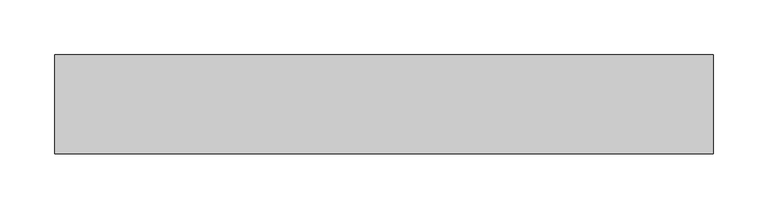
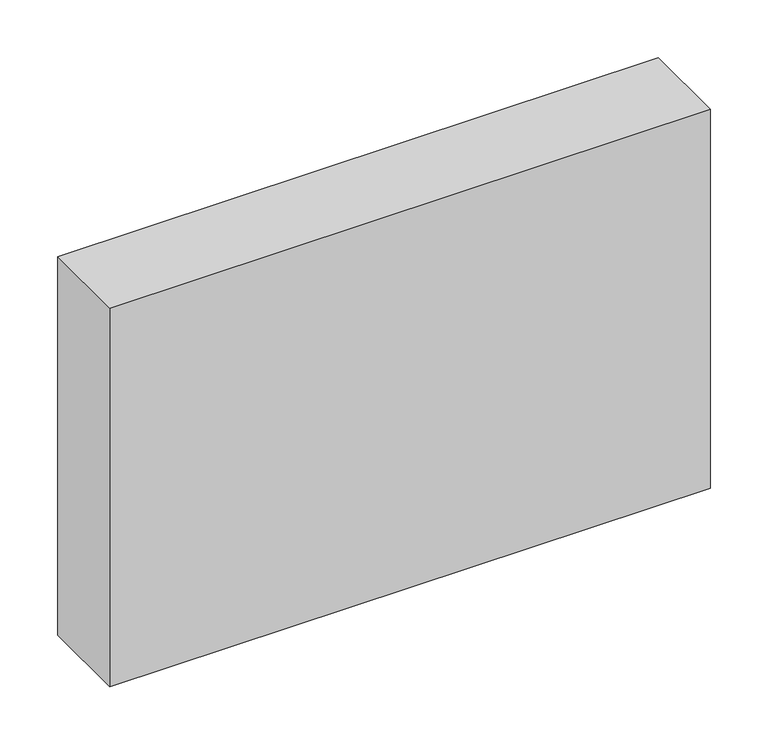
"""IFC4 building model written with IfcOpenShell, lengths in millimetres: proxy geometry, Módulo de Vedação de Concreto Celular - Celucon : MVCC 09x40x60cm (L x A x C)."""

from ifc_helpers import new_model, si_unit, origin, origin_with_axes, place, context, project, spatial, polyline, outline, extrude, source, transform, mapped, element, save


def generic_models_48ae7e6d(model_context):
    return source(origin(), model_context, "Body", "SweptSolid", [
        extrude(outline(polyline([(300.0, 45.0), (300.0, -45.0), (-300.0, -45.0), (-300.0, 45.0), (300.0, 45.0)])), origin_with_axes(), (0.0, 0.0, 1.0), 400.0),
    ])


if __name__ == "__main__":
    model = new_model("IFC4")
    model_context = context("Model", 3, world=origin())
    ifc_project = project(units=[si_unit("LENGTHUNIT", "METRE", prefix="MILLI")], contexts=[model_context])
    site = spatial("IfcSite", under=ifc_project)
    building = spatial("IfcBuilding", under=site)
    placement = place(None, origin())
    generic_models_shape = generic_models_48ae7e6d(model_context)
    element("IfcBuildingElementProxy", 1, Name="Módulo de Vedação de Concreto Celular - Celucon : MVCC 09x40x60cm (L x A x C)", ObjectType="Módulo de Vedação de Concreto Celular - Celucon : MVCC 09x40x60cm (L x A x C)", at=placement, inside=building, context=model_context, shape_type="MappedRepresentation", body=[
        mapped(generic_models_shape, transform((0.0, 0.0, 0.0), x_axis=(1.0, 0.0, 0.0), y_axis=(0.0, 1.0, 0.0), z_axis=(0.0, 0.0, 1.0))),
    ])
    save(model, "model.ifc")
